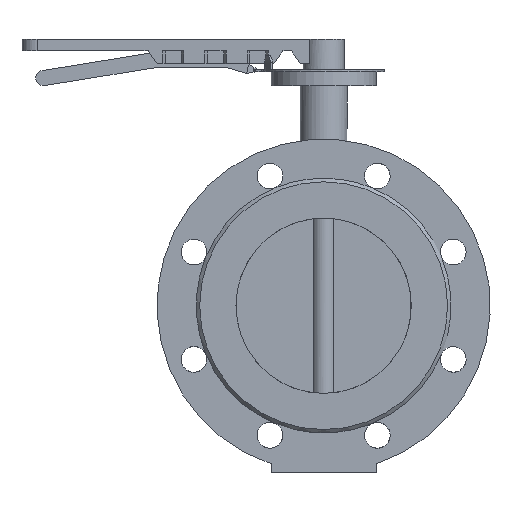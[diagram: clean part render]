
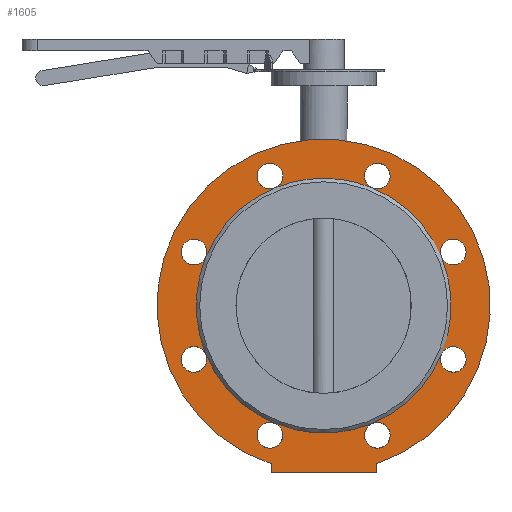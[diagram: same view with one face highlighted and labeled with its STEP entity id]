
A CAD part, front view. The second image highlights one B-rep face of the part: STEP entity #1605.
In plain terms, the highlighted planar face has unit normal (0, -1, 0).
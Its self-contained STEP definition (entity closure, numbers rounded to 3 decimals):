
#1605=ADVANCED_FACE('',(#3058,#3060,#3062,#3064,#3066,#3068,#3070,#3072,#3074,#3076),
#3078,.T.);
#3058=FACE_BOUND('',#3059,.T.);
#3059=EDGE_LOOP('',(#4143,#4144,#4145,#4146));
#3060=FACE_BOUND('',#3061,.T.);
#3061=EDGE_LOOP('',(#4147,#4148));
#3062=FACE_BOUND('',#3063,.T.);
#3063=EDGE_LOOP('',(#4149));
#3064=FACE_BOUND('',#3065,.T.);
#3065=EDGE_LOOP('',(#4150));
#3066=FACE_BOUND('',#3067,.T.);
#3067=EDGE_LOOP('',(#4151));
#3068=FACE_BOUND('',#3069,.T.);
#3069=EDGE_LOOP('',(#4152,#4153,#4154,#4155,#4156));
#3070=FACE_BOUND('',#3071,.T.);
#3071=EDGE_LOOP('',(#4157));
#3072=FACE_BOUND('',#3073,.T.);
#3073=EDGE_LOOP('',(#4158,#4159));
#3074=FACE_BOUND('',#3075,.T.);
#3075=EDGE_LOOP('',(#4160,#4161));
#3076=FACE_BOUND('',#3077,.T.);
#3077=EDGE_LOOP('',(#4162,#4163));
#3078=PLANE('',#3079);
#3079=AXIS2_PLACEMENT_3D('',#3080,#3081,#3082);
#3080=CARTESIAN_POINT('',(0.,-67.,0.));
#3081=DIRECTION('',(0.,-1.,0.));
#3082=DIRECTION('',(0.,0.,1.));
#4143=ORIENTED_EDGE('',*,*,#4670,.T.);
#4144=ORIENTED_EDGE('',*,*,#4668,.F.);
#4145=ORIENTED_EDGE('',*,*,#4666,.F.);
#4146=ORIENTED_EDGE('',*,*,#4665,.F.);
#4147=ORIENTED_EDGE('',*,*,#4694,.T.);
#4148=ORIENTED_EDGE('',*,*,#4693,.T.);
#4149=ORIENTED_EDGE('',*,*,#4697,.T.);
#4150=ORIENTED_EDGE('',*,*,#4686,.T.);
#4151=ORIENTED_EDGE('',*,*,#4696,.T.);
#4152=ORIENTED_EDGE('',*,*,#4724,.T.);
#4153=ORIENTED_EDGE('',*,*,#4725,.T.);
#4154=ORIENTED_EDGE('',*,*,#4726,.T.);
#4155=ORIENTED_EDGE('',*,*,#4727,.T.);
#4156=ORIENTED_EDGE('',*,*,#4728,.T.);
#4157=ORIENTED_EDGE('',*,*,#4695,.T.);
#4158=ORIENTED_EDGE('',*,*,#4687,.T.);
#4159=ORIENTED_EDGE('',*,*,#4688,.T.);
#4160=ORIENTED_EDGE('',*,*,#4689,.T.);
#4161=ORIENTED_EDGE('',*,*,#4690,.T.);
#4162=ORIENTED_EDGE('',*,*,#4692,.T.);
#4163=ORIENTED_EDGE('',*,*,#4691,.T.);
#4665=EDGE_CURVE('',#5472,#5470,#5474,.T.);
#4666=EDGE_CURVE('',#5470,#5475,#5476,.T.);
#4668=EDGE_CURVE('',#5475,#5478,#5479,.T.);
#4670=EDGE_CURVE('',#5472,#5478,#5481,.T.);
#4686=EDGE_CURVE('',#5503,#5503,#5504,.F.);
#4687=EDGE_CURVE('',#5505,#5506,#5507,.F.);
#4688=EDGE_CURVE('',#5506,#5505,#5508,.F.);
#4689=EDGE_CURVE('',#5509,#5510,#5511,.F.);
#4690=EDGE_CURVE('',#5510,#5509,#5512,.F.);
#4691=EDGE_CURVE('',#5513,#5514,#5515,.F.);
#4692=EDGE_CURVE('',#5514,#5513,#5516,.F.);
#4693=EDGE_CURVE('',#5517,#5518,#5519,.F.);
#4694=EDGE_CURVE('',#5518,#5517,#5520,.F.);
#4695=EDGE_CURVE('',#5521,#5521,#5522,.F.);
#4696=EDGE_CURVE('',#5523,#5523,#5524,.F.);
#4697=EDGE_CURVE('',#5525,#5525,#5526,.F.);
#4724=EDGE_CURVE('',#5518,#5572,#5573,.T.);
#4725=EDGE_CURVE('',#5572,#5505,#5574,.T.);
#4726=EDGE_CURVE('',#5505,#5509,#5575,.T.);
#4727=EDGE_CURVE('',#5509,#5514,#5576,.T.);
#4728=EDGE_CURVE('',#5514,#5518,#5577,.T.);
#5470=VERTEX_POINT('',#7797);
#5472=VERTEX_POINT('',#7801);
#5474=CIRCLE('',#7805,142.5);
#5475=VERTEX_POINT('',#7809);
#5476=LINE('',#7810,#7811);
#5478=VERTEX_POINT('',#7816);
#5479=LINE('',#7817,#7818);
#5481=LINE('',#7823,#7824);
#5503=VERTEX_POINT('',#8057);
#5504=CIRCLE('',#8058,11.);
#5505=VERTEX_POINT('',#8062);
#5506=VERTEX_POINT('',#8063);
#5507=CIRCLE('',#8064,11.);
#5508=CIRCLE('',#8068,11.);
#5509=VERTEX_POINT('',#8072);
#5510=VERTEX_POINT('',#8073);
#5511=CIRCLE('',#8074,11.);
#5512=CIRCLE('',#8078,11.);
#5513=VERTEX_POINT('',#8082);
#5514=VERTEX_POINT('',#8083);
#5515=CIRCLE('',#8084,11.);
#5516=CIRCLE('',#8088,11.);
#5517=VERTEX_POINT('',#8092);
#5518=VERTEX_POINT('',#8093);
#5519=CIRCLE('',#8094,11.);
#5520=CIRCLE('',#8098,11.);
#5521=VERTEX_POINT('',#8102);
#5522=CIRCLE('',#8103,11.);
#5523=VERTEX_POINT('',#8107);
#5524=CIRCLE('',#8108,11.);
#5525=VERTEX_POINT('',#8112);
#5526=CIRCLE('',#8113,11.);
#5572=VERTEX_POINT('',#8229);
#5573=CIRCLE('',#8230,109.);
#5574=CIRCLE('',#8234,109.);
#5575=CIRCLE('',#8238,109.);
#5576=CIRCLE('',#8242,109.);
#5577=CIRCLE('',#8246,109.);
#7797=CARTESIAN_POINT('',(45.,-67.,-135.208));
#7801=CARTESIAN_POINT('',(-45.,-67.,-135.208));
#7805=AXIS2_PLACEMENT_3D('',#7806,#7807,#7808);
#7806=CARTESIAN_POINT('',(0.,-67.,0.));
#7807=DIRECTION('',(0.,1.,0.));
#7808=DIRECTION('',(-0.316,0.,-0.949));
#7809=CARTESIAN_POINT('',(45.,-67.,-143.));
#7810=CARTESIAN_POINT('',(45.,-67.,-135.208));
#7811=VECTOR('',#7812,1.);
#7812=DIRECTION('',(0.,0.,-1.));
#7816=CARTESIAN_POINT('',(-45.,-67.,-143.));
#7817=CARTESIAN_POINT('',(45.,-67.,-143.));
#7818=VECTOR('',#7819,1.);
#7819=DIRECTION('',(-1.,0.,0.));
#7823=CARTESIAN_POINT('',(-45.,-67.,-135.208));
#7824=VECTOR('',#7825,1.);
#7825=DIRECTION('',(0.,0.,-1.));
#8057=CARTESIAN_POINT('',(53.7,-67.,103.087));
#8058=AXIS2_PLACEMENT_3D('',#8059,#8060,#8061);
#8059=CARTESIAN_POINT('',(45.922,-67.,110.866));
#8060=DIRECTION('',(0.,-1.,0.));
#8061=DIRECTION('',(0.707,0.,-0.707));
#8062=CARTESIAN_POINT('',(100.703,-67.,41.712));
#8063=CARTESIAN_POINT('',(110.866,-67.,34.922));
#8064=AXIS2_PLACEMENT_3D('',#8065,#8066,#8067);
#8065=CARTESIAN_POINT('',(110.866,-67.,45.922));
#8066=DIRECTION('',(0.,-1.,0.));
#8067=DIRECTION('',(0.,0.,-1.));
#8068=AXIS2_PLACEMENT_3D('',#8069,#8070,#8071);
#8069=CARTESIAN_POINT('',(110.866,-67.,45.922));
#8070=DIRECTION('',(0.,-1.,0.));
#8071=DIRECTION('',(-0.924,0.,-0.383));
#8072=CARTESIAN_POINT('',(100.703,-67.,-41.712));
#8073=CARTESIAN_POINT('',(103.087,-67.,-53.7));
#8074=AXIS2_PLACEMENT_3D('',#8075,#8076,#8077);
#8075=CARTESIAN_POINT('',(110.866,-67.,-45.922));
#8076=DIRECTION('',(0.,-1.,0.));
#8077=DIRECTION('',(-0.707,0.,-0.707));
#8078=AXIS2_PLACEMENT_3D('',#8079,#8080,#8081);
#8079=CARTESIAN_POINT('',(110.866,-67.,-45.922));
#8080=DIRECTION('',(0.,-1.,0.));
#8081=DIRECTION('',(-0.924,0.,0.383));
#8082=CARTESIAN_POINT('',(34.922,-67.,-110.866));
#8083=CARTESIAN_POINT('',(41.712,-67.,-100.703));
#8084=AXIS2_PLACEMENT_3D('',#8085,#8086,#8087);
#8085=CARTESIAN_POINT('',(45.922,-67.,-110.866));
#8086=DIRECTION('',(0.,-1.,0.));
#8087=DIRECTION('',(-0.383,0.,0.924));
#8088=AXIS2_PLACEMENT_3D('',#8089,#8090,#8091);
#8089=CARTESIAN_POINT('',(45.922,-67.,-110.866));
#8090=DIRECTION('',(0.,-1.,0.));
#8091=DIRECTION('',(-1.,0.,0.));
#8092=CARTESIAN_POINT('',(-53.7,-67.,-103.087));
#8093=CARTESIAN_POINT('',(-41.712,-67.,-100.703));
#8094=AXIS2_PLACEMENT_3D('',#8095,#8096,#8097);
#8095=CARTESIAN_POINT('',(-45.922,-67.,-110.866));
#8096=DIRECTION('',(0.,-1.,0.));
#8097=DIRECTION('',(0.383,0.,0.924));
#8098=AXIS2_PLACEMENT_3D('',#8099,#8100,#8101);
#8099=CARTESIAN_POINT('',(-45.922,-67.,-110.866));
#8100=DIRECTION('',(0.,-1.,0.));
#8101=DIRECTION('',(-0.707,0.,0.707));
#8102=CARTESIAN_POINT('',(-110.866,-67.,-34.922));
#8103=AXIS2_PLACEMENT_3D('',#8104,#8105,#8106);
#8104=CARTESIAN_POINT('',(-110.866,-67.,-45.922));
#8105=DIRECTION('',(0.,-1.,0.));
#8106=DIRECTION('',(0.,0.,1.));
#8107=CARTESIAN_POINT('',(-103.087,-67.,53.7));
#8108=AXIS2_PLACEMENT_3D('',#8109,#8110,#8111);
#8109=CARTESIAN_POINT('',(-110.866,-67.,45.922));
#8110=DIRECTION('',(0.,-1.,0.));
#8111=DIRECTION('',(0.707,0.,0.707));
#8112=CARTESIAN_POINT('',(-34.922,-67.,110.866));
#8113=AXIS2_PLACEMENT_3D('',#8114,#8115,#8116);
#8114=CARTESIAN_POINT('',(-45.922,-67.,110.866));
#8115=DIRECTION('',(0.,-1.,0.));
#8116=DIRECTION('',(1.,0.,0.));
#8229=CARTESIAN_POINT('',(0.,-67.,109.));
#8230=AXIS2_PLACEMENT_3D('',#8231,#8232,#8233);
#8231=CARTESIAN_POINT('',(0.,-67.,0.));
#8232=DIRECTION('',(0.,1.,0.));
#8233=DIRECTION('',(-0.383,0.,-0.924));
#8234=AXIS2_PLACEMENT_3D('',#8235,#8236,#8237);
#8235=CARTESIAN_POINT('',(0.,-67.,0.));
#8236=DIRECTION('',(0.,1.,0.));
#8237=DIRECTION('',(0.,0.,1.));
#8238=AXIS2_PLACEMENT_3D('',#8239,#8240,#8241);
#8239=CARTESIAN_POINT('',(0.,-67.,0.));
#8240=DIRECTION('',(0.,1.,0.));
#8241=DIRECTION('',(0.924,0.,0.383));
#8242=AXIS2_PLACEMENT_3D('',#8243,#8244,#8245);
#8243=CARTESIAN_POINT('',(0.,-67.,0.));
#8244=DIRECTION('',(0.,1.,0.));
#8245=DIRECTION('',(0.924,0.,-0.383));
#8246=AXIS2_PLACEMENT_3D('',#8247,#8248,#8249);
#8247=CARTESIAN_POINT('',(0.,-67.,0.));
#8248=DIRECTION('',(0.,1.,0.));
#8249=DIRECTION('',(0.383,0.,-0.924));
